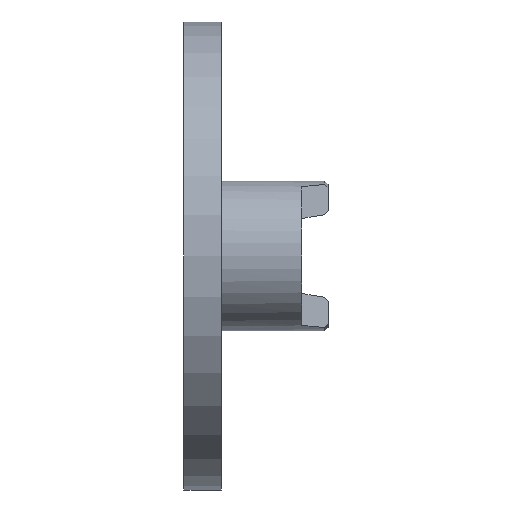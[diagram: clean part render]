
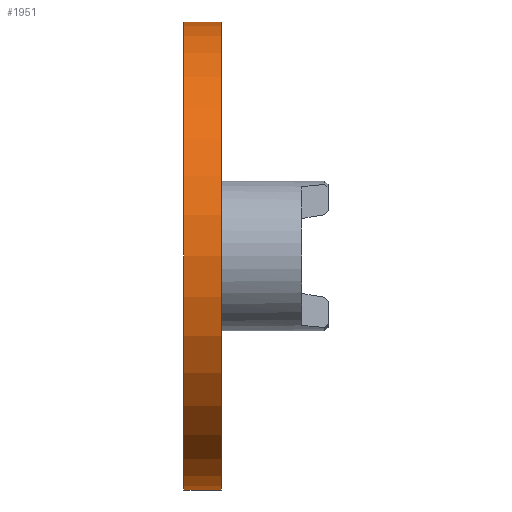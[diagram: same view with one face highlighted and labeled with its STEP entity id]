
A CAD part, left-side view. The second image highlights one B-rep face of the part: STEP entity #1951.
In plain terms, the highlighted cylindrical face has radius 12.5 mm (diameter 25 mm), a partial arc.
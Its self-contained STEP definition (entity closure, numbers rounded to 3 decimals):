
#1234 = DIRECTION ( 'NONE',  ( 0., 1., 0. ) ) ;
#1235 = VECTOR ( 'NONE', #1234, 1000. ) ;
#1236 = CARTESIAN_POINT ( 'NONE',  ( 25.534, 63.514, 46.485 ) ) ;
#1237 = LINE ( 'NONE', #1236, #1235 ) ;
#1265 = DIRECTION ( 'NONE',  ( 0., 1., 0. ) ) ;
#1266 = VECTOR ( 'NONE', #1265, 1000. ) ;
#1267 = CARTESIAN_POINT ( 'NONE',  ( 25.534, 63.514, 21.485 ) ) ;
#1268 = LINE ( 'NONE', #1267, #1266 ) ;
#1278 = CARTESIAN_POINT ( 'NONE',  ( 25.534, 67.314, 46.485 ) ) ;
#1301 = CARTESIAN_POINT ( 'NONE',  ( 25.534, 65.314, 46.485 ) ) ;
#1302 = CARTESIAN_POINT ( 'NONE',  ( 25.534, 65.314, 21.485 ) ) ;
#1304 = CARTESIAN_POINT ( 'NONE',  ( 25.534, 67.314, 21.485 ) ) ;
#1431 = VERTEX_POINT ( 'NONE', #1278 ) ;
#1433 = EDGE_CURVE ( 'NONE', #1483, #1479, #1268, .T. ) ;
#1472 = EDGE_CURVE ( 'NONE', #1484, #1431, #1237, .T. ) ;
#1479 = VERTEX_POINT ( 'NONE', #1304 ) ;
#1483 = VERTEX_POINT ( 'NONE', #1302 ) ;
#1484 = VERTEX_POINT ( 'NONE', #1301 ) ;
#1951 = ADVANCED_FACE ( 'NONE', ( #2647 ), #2434, .T. ) ;
#1952 = EDGE_LOOP ( 'NONE', ( #1953, #1954, #1955, #1956 ) ) ;
#1953 = ORIENTED_EDGE ( 'NONE', *, *, #1433, .F. ) ;
#1954 = ORIENTED_EDGE ( 'NONE', *, *, #2035, .T. ) ;
#1955 = ORIENTED_EDGE ( 'NONE', *, *, #1472, .T. ) ;
#1956 = ORIENTED_EDGE ( 'NONE', *, *, #1957, .F. ) ;
#1957 = EDGE_CURVE ( 'NONE', #1479, #1431, #2435, .T. ) ;
#2035 = EDGE_CURVE ( 'NONE', #1483, #1484, #2281, .T. ) ;
#2278 = DIRECTION ( 'NONE',  ( 0., 0., 1. ) ) ;
#2279 = DIRECTION ( 'NONE',  ( 0., 1., 0. ) ) ;
#2280 = AXIS2_PLACEMENT_3D ( 'NONE', #2285, #2279, #2278 ) ;
#2281 = CIRCLE ( 'NONE', #2280, 12.5 ) ;
#2285 = CARTESIAN_POINT ( 'NONE',  ( 25.534, 65.314, 33.985 ) ) ;
#2426 = DIRECTION ( 'NONE',  ( 0., 0., 1. ) ) ;
#2427 = DIRECTION ( 'NONE',  ( 0., 1., 0. ) ) ;
#2428 = CARTESIAN_POINT ( 'NONE',  ( 25.534, 67.314, 33.985 ) ) ;
#2429 = AXIS2_PLACEMENT_3D ( 'NONE', #2428, #2427, #2426 ) ;
#2431 = DIRECTION ( 'NONE',  ( 0., 0., 1. ) ) ;
#2432 = DIRECTION ( 'NONE',  ( 0., 1., 0. ) ) ;
#2433 = AXIS2_PLACEMENT_3D ( 'NONE', #2436, #2432, #2431 ) ;
#2434 = CYLINDRICAL_SURFACE ( 'NONE', #2433, 12.5 ) ;
#2435 = CIRCLE ( 'NONE', #2429, 12.5 ) ;
#2436 = CARTESIAN_POINT ( 'NONE',  ( 25.534, 63.514, 33.985 ) ) ;
#2647 = FACE_OUTER_BOUND ( 'NONE', #1952, .T. ) ;
